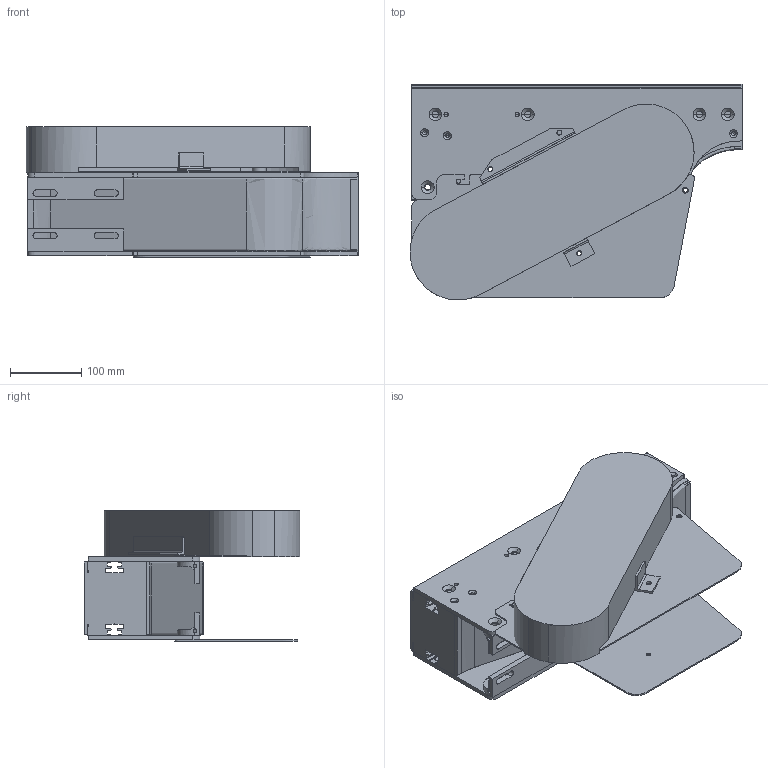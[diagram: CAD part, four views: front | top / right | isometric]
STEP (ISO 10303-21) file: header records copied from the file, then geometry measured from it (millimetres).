
FILE_DESCRIPTION (( 'STEP AP214' ), '1' );
FILE_NAME ('FCID SD 0R.step', '2017-04-07T11:06:24', ( '' ), ( '' ), 'SwSTEP 2.0', 'SolidWorks 2016', '' );
FILE_SCHEMA (( 'AUTOMOTIVE_DESIGN' ));
Length unit declared in the file: millimetre
Products named in the file (1): FCID SD 0R
Bounding box: 467.3 x 303.98 x 184 mm (x, y, z)
Volume: 7267040.9 mm3; surface area: 874916.9 mm2
Topology: 2 solids, 3 shells, 592 faces, 1628 edges, 1013 vertices
Faces by surface type: cylinder 261, plane 205, cone 114, bspline 12
Entity records: 23896 total; most frequent: CARTESIAN_POINT 5601, DIRECTION 3311, ORIENTED_EDGE 3168, EDGE_CURVE 1584, AXIS2_PLACEMENT_3D 1198, VERTEX_POINT 1013, VECTOR 915, LINE 915
